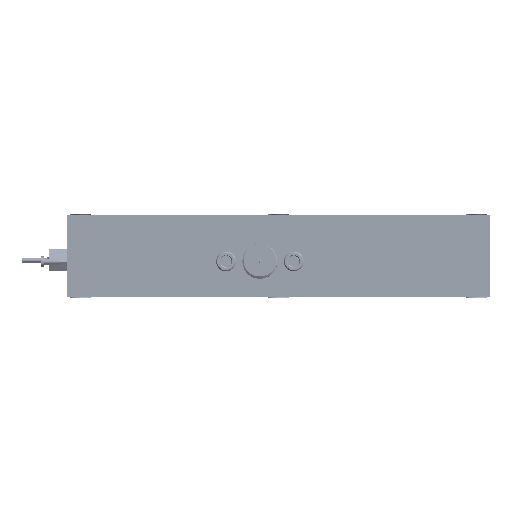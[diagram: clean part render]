
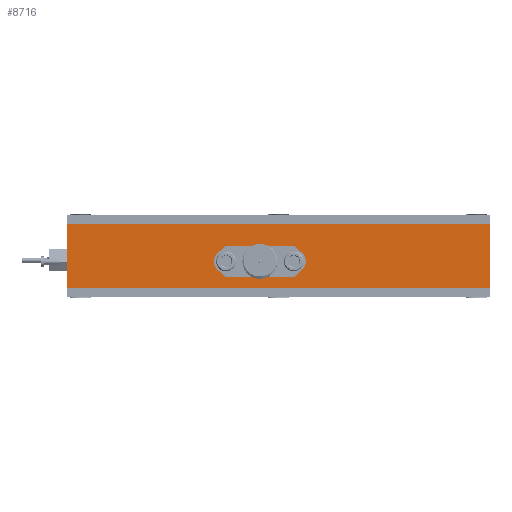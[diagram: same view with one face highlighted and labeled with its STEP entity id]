
A CAD part, front view. The second image highlights one B-rep face of the part: STEP entity #8716.
In plain terms, the highlighted planar face has unit normal (0, -1, 0).
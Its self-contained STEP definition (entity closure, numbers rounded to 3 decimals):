
#8716 = ADVANCED_FACE( '', ( #18640, #18641, #18642, #18643 ), #18644, .F. );
#18640 = FACE_BOUND( '', #30616, .T. );
#18641 = FACE_BOUND( '', #30617, .T. );
#18642 = FACE_BOUND( '', #30618, .T. );
#18643 = FACE_OUTER_BOUND( '', #30619, .T. );
#18644 = PLANE( '', #30620 );
#30616 = EDGE_LOOP( '', ( #59715 ) );
#30617 = EDGE_LOOP( '', ( #59716 ) );
#30618 = EDGE_LOOP( '', ( #59717 ) );
#30619 = EDGE_LOOP( '', ( #59718, #59719, #59720, #59721 ) );
#30620 = AXIS2_PLACEMENT_3D( '', #59722, #59723, #59724 );
#59715 = ORIENTED_EDGE( '', *, *, #76610, .T. );
#59716 = ORIENTED_EDGE( '', *, *, #81100, .T. );
#59717 = ORIENTED_EDGE( '', *, *, #82707, .T. );
#59718 = ORIENTED_EDGE( '', *, *, #84335, .T. );
#59719 = ORIENTED_EDGE( '', *, *, #83665, .F. );
#59720 = ORIENTED_EDGE( '', *, *, #84336, .F. );
#59721 = ORIENTED_EDGE( '', *, *, #73458, .T. );
#59722 = CARTESIAN_POINT( '', ( 38.1, -38.1, 11.582 ) );
#59723 = DIRECTION( '', ( 0., 1., 0. ) );
#59724 = DIRECTION( '', ( 0., 0., 1. ) );
#73458 = EDGE_CURVE( '', #88063, #88061, #88064, .T. );
#76610 = EDGE_CURVE( '', #93621, #93621, #93622, .T. );
#81100 = EDGE_CURVE( '', #101119, #101119, #101120, .T. );
#82707 = EDGE_CURVE( '', #103233, #103233, #103234, .T. );
#83665 = EDGE_CURVE( '', #104434, #104429, #104436, .T. );
#84335 = EDGE_CURVE( '', #88061, #104429, #105247, .T. );
#84336 = EDGE_CURVE( '', #88063, #104434, #105248, .T. );
#88061 = VERTEX_POINT( '', #109806 );
#88063 = VERTEX_POINT( '', #109809 );
#88064 = LINE( '', #109810, #109811 );
#93621 = VERTEX_POINT( '', #118641 );
#93622 = CIRCLE( '', #118642, 0.847 );
#101119 = VERTEX_POINT( '', #131710 );
#101120 = CIRCLE( '', #131711, 0.847 );
#103233 = VERTEX_POINT( '', #135383 );
#103234 = CIRCLE( '', #135384, 1.778 );
#104429 = VERTEX_POINT( '', #137729 );
#104434 = VERTEX_POINT( '', #137736 );
#104436 = LINE( '', #137739, #137740 );
#105247 = LINE( '', #139094, #139095 );
#105248 = LINE( '', #139096, #139097 );
#109806 = CARTESIAN_POINT( '', ( -38.1, -38.1, 0. ) );
#109809 = CARTESIAN_POINT( '', ( -38.1, -38.1, 11.582 ) );
#109810 = CARTESIAN_POINT( '', ( -38.1, -38.1, 11.582 ) );
#109811 = VECTOR( '', #145182, 1000. );
#118641 = CARTESIAN_POINT( '', ( 2.738, -38.1, 3.979 ) );
#118642 = AXIS2_PLACEMENT_3D( '', #148031, #148032, #148033 );
#131710 = CARTESIAN_POINT( '', ( -9.479, -38.1, 3.979 ) );
#131711 = AXIS2_PLACEMENT_3D( '', #152532, #152533, #152534 );
#135383 = CARTESIAN_POINT( '', ( -3.371, -38.1, 3.048 ) );
#135384 = AXIS2_PLACEMENT_3D( '', #153756, #153757, #153758 );
#137729 = CARTESIAN_POINT( '', ( 38.1, -38.1, 0. ) );
#137736 = CARTESIAN_POINT( '', ( 38.1, -38.1, 11.582 ) );
#137739 = CARTESIAN_POINT( '', ( 38.1, -38.1, 11.582 ) );
#137740 = VECTOR( '', #154419, 1000. );
#139094 = CARTESIAN_POINT( '', ( 38.1, -38.1, 0. ) );
#139095 = VECTOR( '', #154896, 1000. );
#139096 = CARTESIAN_POINT( '', ( 38.1, -38.1, 11.582 ) );
#139097 = VECTOR( '', #154897, 1000. );
#145182 = DIRECTION( '', ( 0., 0., -1. ) );
#148031 = CARTESIAN_POINT( '', ( 2.738, -38.1, 4.826 ) );
#148032 = DIRECTION( '', ( 0., 1., 0. ) );
#148033 = DIRECTION( '', ( 0., 0., -1. ) );
#152532 = CARTESIAN_POINT( '', ( -9.479, -38.1, 4.826 ) );
#152533 = DIRECTION( '', ( 0., 1., 0. ) );
#152534 = DIRECTION( '', ( 0., 0., -1. ) );
#153756 = CARTESIAN_POINT( '', ( -3.371, -38.1, 4.826 ) );
#153757 = DIRECTION( '', ( 0., 1., 0. ) );
#153758 = DIRECTION( '', ( 0., 0., -1. ) );
#154419 = DIRECTION( '', ( 0., 0., -1. ) );
#154896 = DIRECTION( '', ( 1., 0., 0. ) );
#154897 = DIRECTION( '', ( 1., 0., 0. ) );
